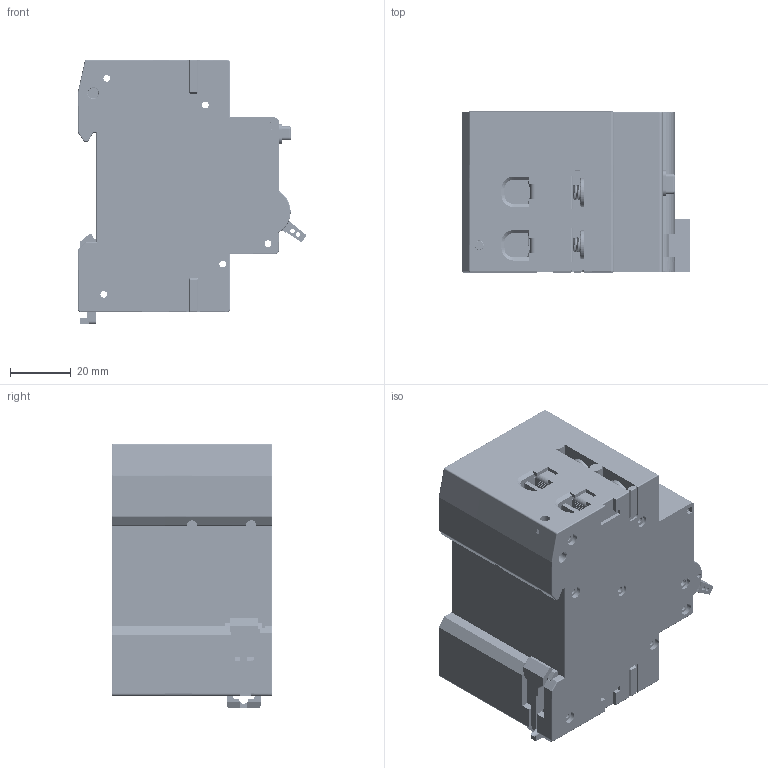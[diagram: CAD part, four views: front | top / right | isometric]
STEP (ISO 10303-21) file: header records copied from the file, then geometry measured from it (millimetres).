
FILE_DESCRIPTION (( 'STEP AP214' ), '1' );
FILE_NAME ('EARC2B2003.STEP', '2026-06-03T08:04:42', ( '' ), ( '' ), 'SwSTEP 2.0', 'SolidWorks 2025', '' );
FILE_SCHEMA (( 'AUTOMOTIVE_DESIGN' ));
Length unit declared in the file: millimetre
Products named in the file (1): EARC2B2003
Bounding box: 75.03 x 52.8 x 87 mm (x, y, z)
Volume: 243489.3 mm3; surface area: 111484.6 mm2
Topology: 24 solids, 26 shells, 5127 faces, 15490 edges, 10656 vertices
Faces by surface type: plane 3341, cylinder 1439, bspline 291, cone 42, torus 14
Entity records: 287214 total; most frequent: CARTESIAN_POINT 103674, ORIENTED_EDGE 30858, DIRECTION 19856, EDGE_CURVE 15429, VERTEX_POINT 10655, VECTOR 7810, LINE 7810, AXIS2_PLACEMENT_3D 6023
